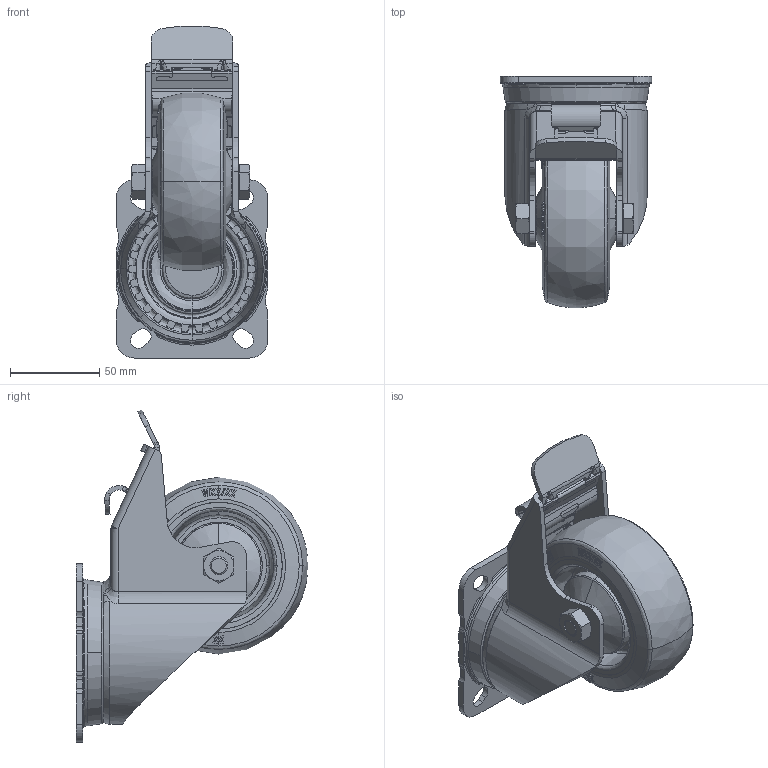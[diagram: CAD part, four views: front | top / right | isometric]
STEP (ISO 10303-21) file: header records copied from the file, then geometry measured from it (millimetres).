
FILE_DESCRIPTION (( 'STEP AP214' ), '1' );
FILE_NAME ('LKX-POBS_100XKA-1-FI_922004-214.step', '2017-06-20T10:27:25', ( '' ), ( '' ), 'SwSTEP 2.0', 'SolidWorks 2010', '' );
FILE_SCHEMA (( 'AUTOMOTIVE_DESIGN' ));
Length unit declared in the file: millimetre
Products named in the file (4): AM_LIK_10x52x3_D20_K; GH-LKX_100-1-FI_G15; POBS_100x38_10XKA_857164; LKX-POBS_100XKA-1-FI_922004-214
Assembly tree (3 placements, depth 2):
  LKX-POBS_100XKA-1-FI_922004-214
    GH-LKX_100-1-FI_G15
    AM_LIK_10x52x3_D20_K
    POBS_100x38_10XKA_857164
Bounding box: 85 x 129.88 x 186.41 mm (x, y, z)
Volume: 394353.6 mm3; surface area: 129132.7 mm2
Topology: 3 solids, 8 shells, 2324 faces, 6340 edges, 4135 vertices
Faces by surface type: plane 1006, bspline 708, cylinder 458, cone 144, torus 8
Entity records: 122474 total; most frequent: CARTESIAN_POINT 43221, ORIENTED_EDGE 12656, DIRECTION 8916, EDGE_CURVE 6328, VERTEX_POINT 4135, VECTOR 2980, LINE 2980, AXIS2_PLACEMENT_3D 2968
